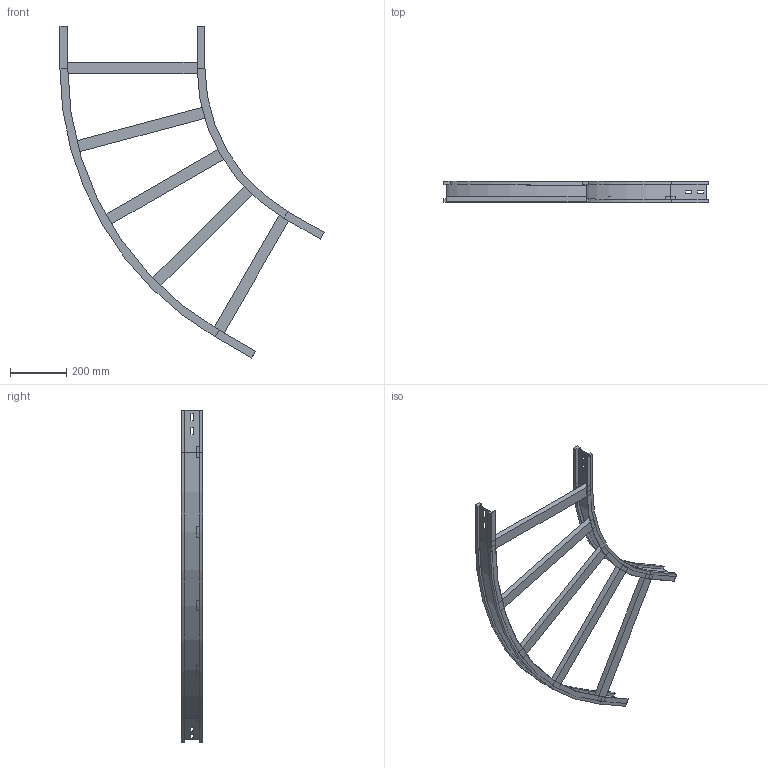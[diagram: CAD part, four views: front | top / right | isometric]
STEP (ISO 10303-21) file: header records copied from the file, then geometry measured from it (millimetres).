
FILE_DESCRIPTION (( 'STEP AP214' ), '1' );
FILE_NAME ('13S6C500.step', '2025-02-21T16:08:26', ( '' ), ( '' ), 'SwSTEP 2.0', 'SolidWorks 2023', '' );
FILE_SCHEMA (( 'AUTOMOTIVE_DESIGN' ));
Length unit declared in the file: millimetre
Products named in the file (4): LONGH.ESTERNO 60°_H75_R600+500; LONGH.INTERNO 60°_H75_R600; TRAVERSINO_500; 13S6C500
Assembly tree (7 placements, depth 2):
  13S6C500
    LONGH.INTERNO 60°_H75_R600
    LONGH.ESTERNO 60°_H75_R600+500
    TRAVERSINO_500  x5
Bounding box: 943.4 x 75 x 1185.42 mm (x, y, z)
Volume: 3183011.2 mm3; surface area: 895890.3 mm2
Topology: 7 solids, 7 shells, 138 faces, 324 edges, 200 vertices
Faces by surface type: plane 126, cylinder 12
Entity records: 3405 total; most frequent: CARTESIAN_POINT 568, ORIENTED_EDGE 552, DIRECTION 548, EDGE_CURVE 276, LINE 252, VECTOR 252, VERTEX_POINT 168, AXIS2_PLACEMENT_3D 148
